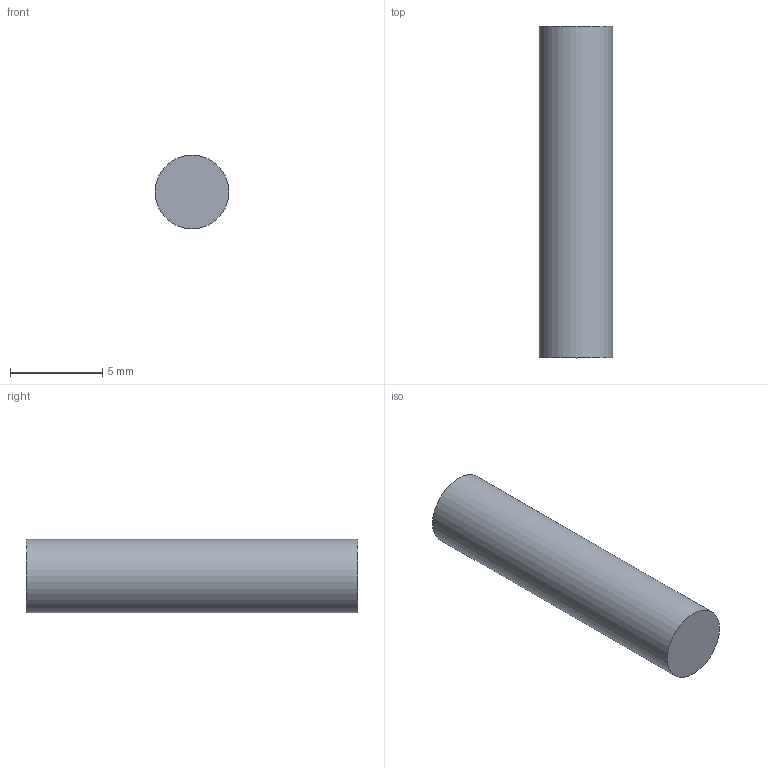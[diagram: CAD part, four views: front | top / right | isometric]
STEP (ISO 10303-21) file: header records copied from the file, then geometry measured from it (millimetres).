
FILE_DESCRIPTION(('Open CASCADE Model'),'2;1');
FILE_NAME('Open CASCADE Shape Model','2026-10-16T00:29:51',('Author'),( 'Open CASCADE'),'Open CASCADE STEP processor 7.9','Open CASCADE 7.9' ,'Unknown');
FILE_SCHEMA(('AUTOMOTIVE_DESIGN { 1 0 10303 214 1 1 1 1 }'));
Length unit declared in the file: millimetre
Products named in the file (1): Open CASCADE STEP translator 7.9 2
Bounding box: 4 x 18 x 4 mm (x, y, z)
Volume: 226.2 mm3; surface area: 251.3 mm2
Topology: 1 solids, 1 shells, 3 faces, 3 edges, 2 vertices
Faces by surface type: plane 2, cylinder 1
Full cylindrical faces by diameter (mm): 4 x1
Entity records: 108 total; most frequent: DIRECTION 19, CARTESIAN_POINT 15, AXIS2_PLACEMENT_3D 6, ORIENTED_EDGE 6, PCURVE 6, DEFINITIONAL_REPRESENTATION 6, LINE 5, VECTOR 5
